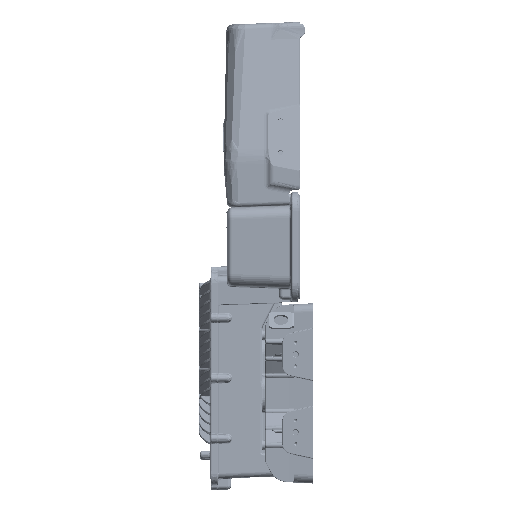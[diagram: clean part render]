
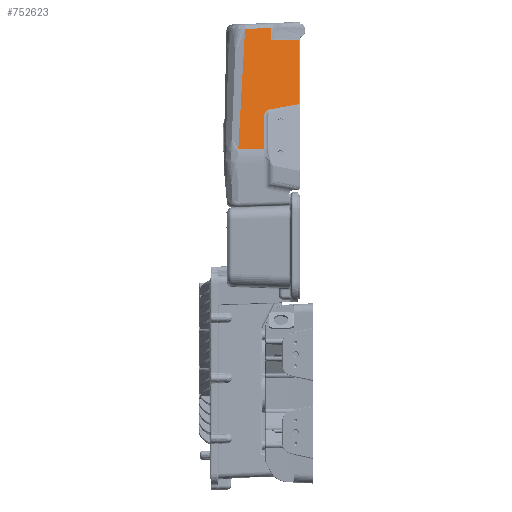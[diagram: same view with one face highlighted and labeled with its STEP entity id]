
A CAD part, left-side view. The second image highlights one B-rep face of the part: STEP entity #752623.
In plain terms, the highlighted planar face has unit normal (-0.964, 0.035, 0.262).
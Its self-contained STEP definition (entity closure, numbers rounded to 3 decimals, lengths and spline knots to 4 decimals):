
#728104=CARTESIAN_POINT('',(-4.2901,1.5583,
0.4051));
#728105=CARTESIAN_POINT('',(-4.289,1.4791,
0.4197));
#728106=CARTESIAN_POINT('',(-4.2866,1.3089,
0.451));
#728107=CARTESIAN_POINT('',(-4.2817,0.9565,
0.5159));
#728108=CARTESIAN_POINT('',(-4.2781,0.6927,
0.5644));
#728109=CARTESIAN_POINT('',(-4.2736,0.3619,
0.6251));
#728110=CARTESIAN_POINT('',(-4.2707,0.1491,
0.6638));
#728111=CARTESIAN_POINT('',(-4.2692,0.0405,
0.6839));
#728178=CARTESIAN_POINT('',(-4.3629,1.8161,
0.1027));
#728179=CARTESIAN_POINT('',(-4.3591,1.8161,
0.1167));
#728180=CARTESIAN_POINT('',(-4.3517,1.8144,
0.1441));
#728181=CARTESIAN_POINT('',(-4.3413,1.807,
0.1835));
#728182=CARTESIAN_POINT('',(-4.3316,1.7948,
0.2205));
#728183=CARTESIAN_POINT('',(-4.3229,1.7783,
0.255));
#728184=CARTESIAN_POINT('',(-4.315,1.7577,
0.2866));
#728185=CARTESIAN_POINT('',(-4.3081,1.7332,
0.3153));
#728186=CARTESIAN_POINT('',(-4.3022,1.705,
0.3408));
#728187=CARTESIAN_POINT('',(-4.2974,1.6732,
0.3629));
#728188=CARTESIAN_POINT('',(-4.2936,1.6381,
0.3813));
#728189=CARTESIAN_POINT('',(-4.2911,1.5997,
0.3957));
#728190=CARTESIAN_POINT('',(-4.2903,1.5724,
0.4024));
#728191=CARTESIAN_POINT('',(-4.2901,1.5583,
0.4051));
#728193=CARTESIAN_POINT('',(-4.2901,1.5583,
0.4051));
#729060=DIRECTION('',(0.262,0.,0.965));
#729061=VECTOR('',#729060,3.4345);
#729062=CARTESIAN_POINT('',(-4.2692,0.0405,
0.6839));
#729063=LINE('',#729062,#729061);
#729064=DIRECTION('',(-0.262,0.,
-0.965));
#729065=VECTOR('',#729064,1.7876);
#729066=CARTESIAN_POINT('',(-4.3629,1.8161,
0.1027));
#729067=LINE('',#729066,#729065);
#729068=DIRECTION('',(0.035,0.999,-0.005));
#729069=VECTOR('',#729068,1.3333);
#729070=CARTESIAN_POINT('',(-4.8317,1.8161,
-1.6224));
#729071=LINE('',#729070,#729069);
#729072=CARTESIAN_POINT('',(-4.7851,3.1486,
-1.6286));
#729073=CARTESIAN_POINT('',(-4.7392,3.1332,
-1.4576));
#729074=CARTESIAN_POINT('',(-4.6413,3.1038,
-1.0933));
#729075=CARTESIAN_POINT('',(-4.4846,3.0651,
-0.5114));
#729076=CARTESIAN_POINT('',(-4.3081,3.0268,
0.143));
#729077=CARTESIAN_POINT('',(-4.1112,2.9849,
0.8735));
#729078=CARTESIAN_POINT('',(-3.8986,2.9415,
1.6616));
#729079=CARTESIAN_POINT('',(-3.6823,2.8995,
2.463));
#729080=CARTESIAN_POINT('',(-3.4772,2.8617,
3.2228));
#729081=CARTESIAN_POINT('',(-3.2915,2.8303,
3.9104));
#729082=CARTESIAN_POINT('',(-3.1752,2.8097,
4.3411));
#729083=CARTESIAN_POINT('',(-3.1203,2.8021,
4.5441));
#729085=DIRECTION('',(-0.027,-0.999,0.035));
#729086=VECTOR('',#729085,1.3161);
#729087=CARTESIAN_POINT('',(-3.1203,2.8021,
4.5441));
#729088=LINE('',#729087,#729086);
#729089=DIRECTION('',(-0.262,0.,-0.965));
#729090=VECTOR('',#729089,0.6212);
#729091=CARTESIAN_POINT('',(-3.1554,1.4873,
4.5902));
#729092=LINE('',#729091,#729090);
#729093=CARTESIAN_POINT('',(-4.8317,1.8161,
-1.6224));
#729128=CARTESIAN_POINT('',(-4.7851,3.1486,
-1.6286));
#731801=CARTESIAN_POINT('',(-3.3685,0.0414,
3.9981));
#731802=CARTESIAN_POINT('',(-3.3631,0.2021,
3.9966));
#731803=CARTESIAN_POINT('',(-3.3523,0.5234,
3.9942));
#731804=CARTESIAN_POINT('',(-3.3345,1.0053,
3.995));
#731805=CARTESIAN_POINT('',(-3.3237,1.3266,
3.9924));
#731806=CARTESIAN_POINT('',(-3.3183,1.4873,
3.9908));
#739593=VERTEX_POINT('',#729093);
#739597=VERTEX_POINT('',#729128);
#739894=CARTESIAN_POINT('',(-3.3686,0.0414,
3.9982));
#739895=VERTEX_POINT('',#739894);
#739896=CARTESIAN_POINT('',(-4.2692,0.0406,
0.6837));
#739897=VERTEX_POINT('',#739896);
#739899=VERTEX_POINT('',#728193);
#739901=CARTESIAN_POINT('',(-4.3629,1.8161,0.1027));
#739902=VERTEX_POINT('',#739901);
#739903=VERTEX_POINT('',#729083);
#739904=CARTESIAN_POINT('',(-3.1554,1.4873,
4.5902));
#739905=VERTEX_POINT('',#739904);
#739906=CARTESIAN_POINT('',(-3.3183,1.4873,
3.9908));
#739907=VERTEX_POINT('',#739906);
#752602=CARTESIAN_POINT('',(-5.3072,0.,-3.1304));
#752603=DIRECTION('',(-0.964,0.035,0.262));
#752604=DIRECTION('',(-0.262,0.,-0.965));
#752605=AXIS2_PLACEMENT_3D('',#752602,#752603,#752604);
#752606=PLANE('',#752605);
#752607=ORIENTED_EDGE('',*,*,#750323,.F.);
#752608=ORIENTED_EDGE('',*,*,#750563,.F.);
#752609=ORIENTED_EDGE('',*,*,#750578,.T.);
#752611=ORIENTED_EDGE('',*,*,#752610,.T.);
#752613=ORIENTED_EDGE('',*,*,#752612,.T.);
#752615=ORIENTED_EDGE('',*,*,#752614,.T.);
#752617=ORIENTED_EDGE('',*,*,#752616,.T.);
#752619=ORIENTED_EDGE('',*,*,#752618,.F.);
#752620=ORIENTED_EDGE('',*,*,#752596,.F.);
#752621=EDGE_LOOP('',(#752607,#752608,#752609,#752611,#752613,#752615,#752617,
#752619,#752620));
#752622=FACE_OUTER_BOUND('',#752621,.F.);
#752623=ADVANCED_FACE('',(#752622),#752606,.T.);
#728112=B_SPLINE_CURVE_WITH_KNOTS('',3,(#728104,#728105,#728106,#728107,#728108,
#728109,#728110,#728111),.UNSPECIFIED.,.F.,.F.,(4,1,1,1,1,4),(0.,0.2,0.4,
0.6,0.8,1.),.UNSPECIFIED.);
#728192=B_SPLINE_CURVE_WITH_KNOTS('',3,(#728178,#728179,#728180,#728181,#728182,
#728183,#728184,#728185,#728186,#728187,#728188,#728189,#728190,#728191),
.UNSPECIFIED.,.F.,.F.,(4,1,1,1,1,1,1,1,1,1,1,4),(0.,0.0909,
0.1818,0.2727,0.3636,0.4545,
0.5455,0.6364,0.7273,0.8182,
0.9091,1.),.UNSPECIFIED.);
#729084=B_SPLINE_CURVE_WITH_KNOTS('',3,(#729072,#729073,#729074,#729075,#729076,
#729077,#729078,#729079,#729080,#729081,#729082,#729083),.UNSPECIFIED.,.F.,.F.,(
4,1,1,1,1,1,1,1,1,4),(0.,0.0833,0.1773,
0.283,0.4014,0.5323,0.666,
0.7908,0.9014,1.),.UNSPECIFIED.);
#731807=B_SPLINE_CURVE_WITH_KNOTS('',3,(#731801,#731802,#731803,#731804,#731805,
#731806),.UNSPECIFIED.,.F.,.F.,(4,1,1,4),(0.,0.3333,
0.6667,1.),.UNSPECIFIED.);
#750323=EDGE_CURVE('',#739899,#739897,#728112,.T.);
#750563=EDGE_CURVE('',#739902,#739899,#728192,.T.);
#750578=EDGE_CURVE('',#739902,#739593,#729067,.T.);
#752596=EDGE_CURVE('',#739897,#739895,#729063,.T.);
#752610=EDGE_CURVE('',#739593,#739597,#729071,.T.);
#752612=EDGE_CURVE('',#739597,#739903,#729084,.T.);
#752614=EDGE_CURVE('',#739903,#739905,#729088,.T.);
#752616=EDGE_CURVE('',#739905,#739907,#729092,.T.);
#752618=EDGE_CURVE('',#739895,#739907,#731807,.T.);
